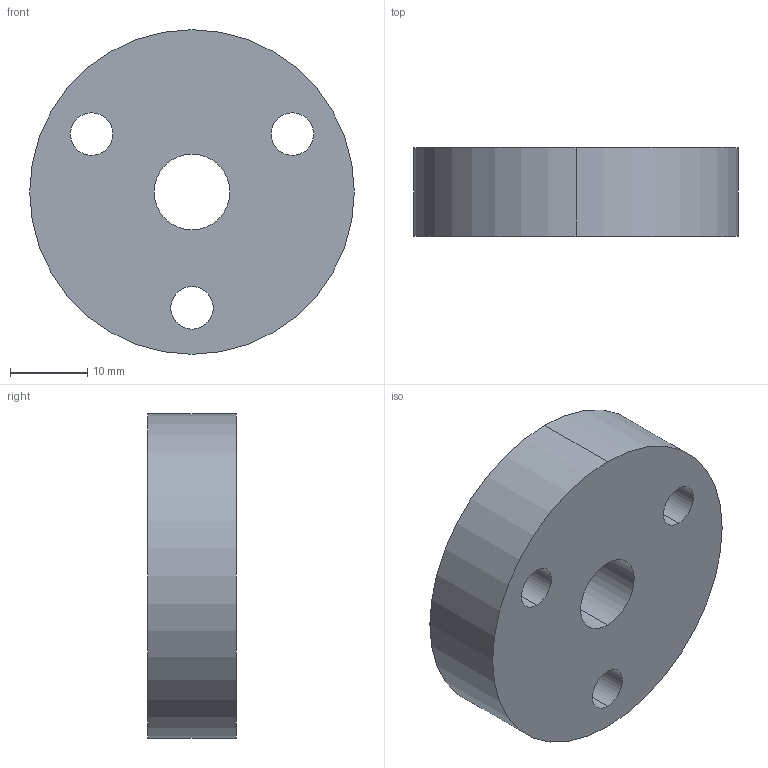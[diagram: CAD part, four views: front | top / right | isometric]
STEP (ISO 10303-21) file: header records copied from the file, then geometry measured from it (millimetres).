
FILE_DESCRIPTION (( 'STEP AP214' ), '1' );
FILE_NAME ('Actuator Carrier_TRA25PPD.STEP', '2022-06-01T23:17:05', ( '' ), ( '' ), 'SwSTEP 2.0', 'SolidWorks 2019', '' );
FILE_SCHEMA (( 'AUTOMOTIVE_DESIGN' ));
Length unit declared in the file: millimetre
Products named in the file (1): Actuator Carrier_TRA25PPD
Bounding box: 42 x 11.5 x 42 mm (x, y, z)
Volume: 14240.7 mm3; surface area: 4936.4 mm2
Topology: 1 solids, 1 shells, 14 faces, 34 edges, 22 vertices
Faces by surface type: cylinder 10, cone 2, plane 2
Entity records: 474 total; most frequent: DIRECTION 86, CARTESIAN_POINT 71, ORIENTED_EDGE 68, AXIS2_PLACEMENT_3D 37, EDGE_CURVE 34, EDGE_LOOP 22, VERTEX_POINT 22, CIRCLE 22
